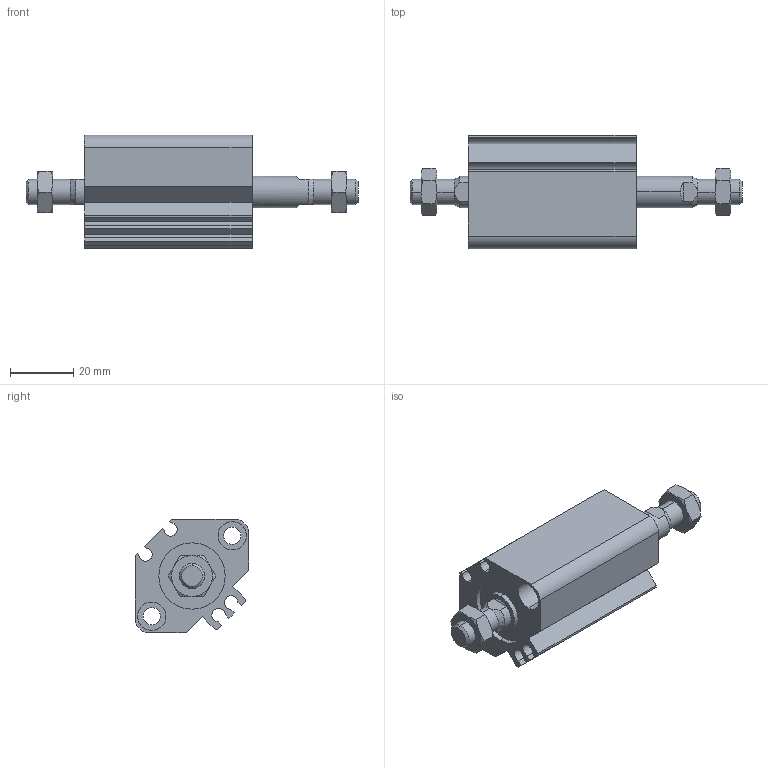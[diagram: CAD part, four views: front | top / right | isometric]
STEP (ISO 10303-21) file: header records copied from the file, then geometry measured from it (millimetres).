
FILE_DESCRIPTION (( 'STEP AP203' ), '1' );
FILE_NAME ('CCMB20-15M-P.STEP', '2020-08-10T11:20:36', ( '' ), ( '' ), 'SwSTEP 2.0', 'SolidWorks 2019', '' );
FILE_SCHEMA (( 'CONFIG_CONTROL_DESIGN' ));
Length unit declared in the file: millimetre
Products named in the file (1): CCMB20-15M-P
Bounding box: 105 x 36 x 36 mm (x, y, z)
Volume: 51517.6 mm3; surface area: 21909.6 mm2
Topology: 4 solids, 4 shells, 166 faces, 384 edges, 240 vertices
Faces by surface type: plane 66, cylinder 56, cone 44
Entity records: 5367 total; most frequent: CARTESIAN_POINT 1507, DIRECTION 806, ORIENTED_EDGE 768, EDGE_CURVE 384, AXIS2_PLACEMENT_3D 319, VERTEX_POINT 240, EDGE_LOOP 190, VECTOR 168
